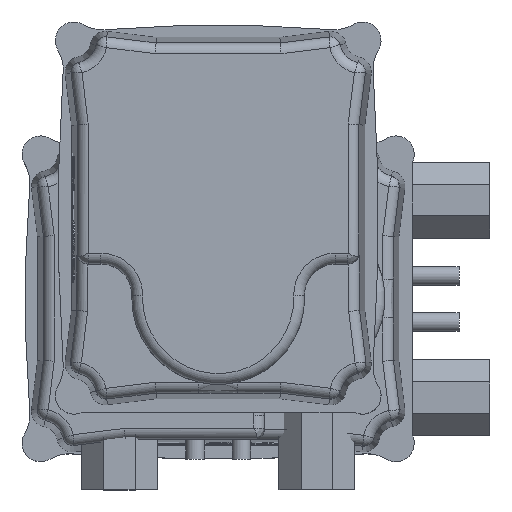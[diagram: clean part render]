
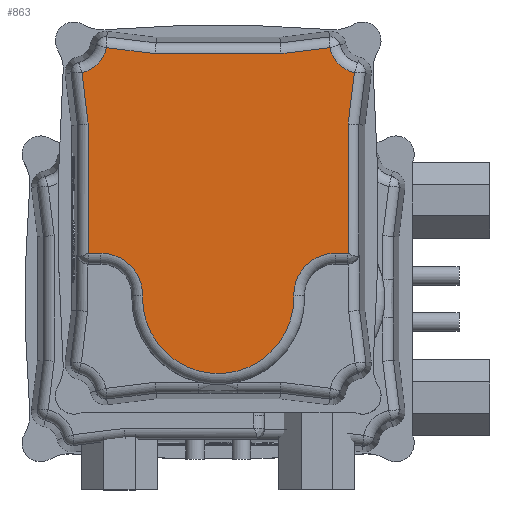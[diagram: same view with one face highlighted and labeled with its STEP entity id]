
A CAD part, top view. The second image highlights one B-rep face of the part: STEP entity #863.
In plain terms, the highlighted planar face has unit normal (0, 0, 1).
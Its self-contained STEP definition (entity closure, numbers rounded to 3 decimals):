
#863 = ADVANCED_FACE( '', ( #2143 ), #2144, .T. );
#2143 = FACE_OUTER_BOUND( '', #4845, .T. );
#2144 = PLANE( '', #4846 );
#4845 = EDGE_LOOP( '', ( #11884, #11885, #11886, #11887, #11888, #11889, #11890, #11891, #11892, #11893, #11894, #11895, #11896, #11897, #11898, #11899 ) );
#4846 = AXIS2_PLACEMENT_3D( '', #11900, #11901, #11902 );
#11884 = ORIENTED_EDGE( '', *, *, #16513, .T. );
#11885 = ORIENTED_EDGE( '', *, *, #16330, .T. );
#11886 = ORIENTED_EDGE( '', *, *, #16514, .T. );
#11887 = ORIENTED_EDGE( '', *, *, #16515, .T. );
#11888 = ORIENTED_EDGE( '', *, *, #16516, .T. );
#11889 = ORIENTED_EDGE( '', *, *, #15944, .T. );
#11890 = ORIENTED_EDGE( '', *, *, #15935, .T. );
#11891 = ORIENTED_EDGE( '', *, *, #16108, .T. );
#11892 = ORIENTED_EDGE( '', *, *, #16517, .T. );
#11893 = ORIENTED_EDGE( '', *, *, #16518, .T. );
#11894 = ORIENTED_EDGE( '', *, *, #16519, .T. );
#11895 = ORIENTED_EDGE( '', *, *, #16194, .T. );
#11896 = ORIENTED_EDGE( '', *, *, #16520, .T. );
#11897 = ORIENTED_EDGE( '', *, *, #16484, .T. );
#11898 = ORIENTED_EDGE( '', *, *, #16521, .T. );
#11899 = ORIENTED_EDGE( '', *, *, #16522, .T. );
#11900 = CARTESIAN_POINT( '', ( 47.227, -44.578, 84. ) );
#11901 = DIRECTION( '', ( 0., 0., 1. ) );
#11902 = DIRECTION( '', ( 1., 0., 0. ) );
#15935 = EDGE_CURVE( '', #17897, #17895, #17898, .T. );
#15944 = EDGE_CURVE( '', #17912, #17897, #17913, .T. );
#16108 = EDGE_CURVE( '', #17895, #18196, #18198, .F. );
#16194 = EDGE_CURVE( '', #18346, #18344, #18347, .T. );
#16330 = EDGE_CURVE( '', #18566, #18571, #18573, .T. );
#16484 = EDGE_CURVE( '', #18818, #18822, #18824, .T. );
#16513 = EDGE_CURVE( '', #18869, #18566, #18870, .T. );
#16514 = EDGE_CURVE( '', #18571, #18871, #18872, .F. );
#16515 = EDGE_CURVE( '', #18871, #18873, #18874, .T. );
#16516 = EDGE_CURVE( '', #18873, #17912, #18875, .T. );
#16517 = EDGE_CURVE( '', #18196, #18876, #18877, .T. );
#16518 = EDGE_CURVE( '', #18876, #18878, #18879, .F. );
#16519 = EDGE_CURVE( '', #18878, #18346, #18880, .T. );
#16520 = EDGE_CURVE( '', #18344, #18818, #18881, .T. );
#16521 = EDGE_CURVE( '', #18822, #18882, #18883, .F. );
#16522 = EDGE_CURVE( '', #18882, #18869, #18884, .T. );
#17895 = VERTEX_POINT( '', #20780 );
#17897 = VERTEX_POINT( '', #20782 );
#17898 = LINE( '', #20783, #20784 );
#17912 = VERTEX_POINT( '', #20803 );
#17913 = CIRCLE( '', #20804, 0.5 );
#18196 = VERTEX_POINT( '', #21301 );
#18198 = CIRCLE( '', #21303, 13.5 );
#18344 = VERTEX_POINT( '', #21590 );
#18346 = VERTEX_POINT( '', #21613 );
#18347 = CIRCLE( '', #21614, 0.5 );
#18566 = VERTEX_POINT( '', #22037 );
#18571 = VERTEX_POINT( '', #22043 );
#18573 = LINE( '', #22062, #22063 );
#18818 = VERTEX_POINT( '', #22538 );
#18822 = VERTEX_POINT( '', #22543 );
#18824 = LINE( '', #22566, #22567 );
#18869 = VERTEX_POINT( '', #22911 );
#18870 = LINE( '', #22912, #22913 );
#18871 = VERTEX_POINT( '', #22914 );
#18872 = CIRCLE( '', #22915, 10.907 );
#18873 = VERTEX_POINT( '', #22916 );
#18874 = LINE( '', #22917, #22918 );
#18875 = LINE( '', #22919, #22920 );
#18876 = VERTEX_POINT( '', #22921 );
#18877 = CIRCLE( '', #22922, 24.5 );
#18878 = VERTEX_POINT( '', #22923 );
#18879 = CIRCLE( '', #22924, 13.5 );
#18880 = LINE( '', #22925, #22926 );
#18881 = LINE( '', #22927, #22928 );
#18882 = VERTEX_POINT( '', #22929 );
#18883 = CIRCLE( '', #22930, 10.907 );
#18884 = LINE( '', #22931, #22932 );
#20780 = CARTESIAN_POINT( '', ( 11.5, -37.987, 84. ) );
#20782 = CARTESIAN_POINT( '', ( 11.5, -42., 84. ) );
#20783 = CARTESIAN_POINT( '', ( 11.5, -44.578, 84. ) );
#20784 = VECTOR( '', #28416, 1000. );
#20803 = CARTESIAN_POINT( '', ( 11.491, -42.093, 84. ) );
#20804 = AXIS2_PLACEMENT_3D( '', #28424, #28425, #28426 );
#21301 = CARTESIAN_POINT( '', ( 25.355, -24.492, 84. ) );
#21303 = AXIS2_PLACEMENT_3D( '', #28571, #28572, #28573 );
#21590 = CARTESIAN_POINT( '', ( 11.491, 42.093, 84. ) );
#21613 = CARTESIAN_POINT( '', ( 11.5, 42., 84. ) );
#21614 = AXIS2_PLACEMENT_3D( '', #28676, #28677, #28678 );
#22037 = CARTESIAN_POINT( '', ( -53.093, -20.331, 84. ) );
#22043 = CARTESIAN_POINT( '', ( -55.033, -36.126, 84. ) );
#22062 = CARTESIAN_POINT( '', ( -54.536, -32.083, 84. ) );
#22063 = VECTOR( '', #28786, 1000. );
#22538 = CARTESIAN_POINT( '', ( -30.331, 42.093, 84. ) );
#22543 = CARTESIAN_POINT( '', ( -46.913, 44.129, 84. ) );
#22566 = CARTESIAN_POINT( '', ( 56.559, 31.425, 84. ) );
#22567 = VECTOR( '', #28939, 1000. );
#22911 = CARTESIAN_POINT( '', ( -53.093, 20.331, 84. ) );
#22912 = CARTESIAN_POINT( '', ( -53.093, -44.578, 84. ) );
#22913 = VECTOR( '', #28955, 1000. );
#22914 = CARTESIAN_POINT( '', ( -46.913, -44.129, 84. ) );
#22915 = AXIS2_PLACEMENT_3D( '', #28956, #28957, #28958 );
#22916 = CARTESIAN_POINT( '', ( -30.331, -42.093, 84. ) );
#22917 = CARTESIAN_POINT( '', ( 45.775, -32.749, 84. ) );
#22918 = VECTOR( '', #28959, 1000. );
#22919 = CARTESIAN_POINT( '', ( 47.227, -42.093, 84. ) );
#22920 = VECTOR( '', #28960, 1000. );
#22921 = CARTESIAN_POINT( '', ( 25.355, 24.492, 84. ) );
#22922 = AXIS2_PLACEMENT_3D( '', #28961, #28962, #28963 );
#22923 = CARTESIAN_POINT( '', ( 11.5, 37.987, 84. ) );
#22924 = AXIS2_PLACEMENT_3D( '', #28964, #28965, #28966 );
#22925 = CARTESIAN_POINT( '', ( 11.5, -44.578, 84. ) );
#22926 = VECTOR( '', #28967, 1000. );
#22927 = CARTESIAN_POINT( '', ( 47.227, 42.093, 84. ) );
#22928 = VECTOR( '', #28968, 1000. );
#22929 = CARTESIAN_POINT( '', ( -55.033, 36.126, 84. ) );
#22930 = AXIS2_PLACEMENT_3D( '', #28969, #28970, #28971 );
#22931 = CARTESIAN_POINT( '', ( -43.752, -55.749, 84. ) );
#22932 = VECTOR( '', #28972, 1000. );
#28416 = DIRECTION( '', ( 0., 1., 0. ) );
#28424 = CARTESIAN_POINT( '', ( 11., -42., 84. ) );
#28425 = DIRECTION( '', ( 0., 0., 1. ) );
#28426 = DIRECTION( '', ( 1., 0., 0. ) );
#28571 = CARTESIAN_POINT( '', ( 25., -37.987, 84. ) );
#28572 = DIRECTION( '', ( 0., 0., 1. ) );
#28573 = DIRECTION( '', ( 1., 0., 0. ) );
#28676 = CARTESIAN_POINT( '', ( 11., 42., 84. ) );
#28677 = DIRECTION( '', ( 0., 0., 1. ) );
#28678 = DIRECTION( '', ( 1., 0., 0. ) );
#28786 = DIRECTION( '', ( -0.122, -0.993, 0. ) );
#28939 = DIRECTION( '', ( -0.993, 0.122, 0. ) );
#28955 = DIRECTION( '', ( 0., -1., 0. ) );
#28956 = CARTESIAN_POINT( '', ( -57.5, -46.75, 84. ) );
#28957 = DIRECTION( '', ( 0., 0., 1. ) );
#28958 = DIRECTION( '', ( 1., 0., 0. ) );
#28959 = DIRECTION( '', ( 0.993, 0.122, 0. ) );
#28960 = DIRECTION( '', ( 1., 0., 0. ) );
#28961 = CARTESIAN_POINT( '', ( 26., 0., 84. ) );
#28962 = DIRECTION( '', ( 0., 0., 1. ) );
#28963 = DIRECTION( '', ( 1., 0., 0. ) );
#28964 = CARTESIAN_POINT( '', ( 25., 37.987, 84. ) );
#28965 = DIRECTION( '', ( 0., 0., 1. ) );
#28966 = DIRECTION( '', ( 1., 0., 0. ) );
#28967 = DIRECTION( '', ( 0., 1., 0. ) );
#28968 = DIRECTION( '', ( -1., 0., 0. ) );
#28969 = CARTESIAN_POINT( '', ( -57.5, 46.75, 84. ) );
#28970 = DIRECTION( '', ( 0., 0., 1. ) );
#28971 = DIRECTION( '', ( 1., 0., 0. ) );
#28972 = DIRECTION( '', ( 0.122, -0.993, 0. ) );
